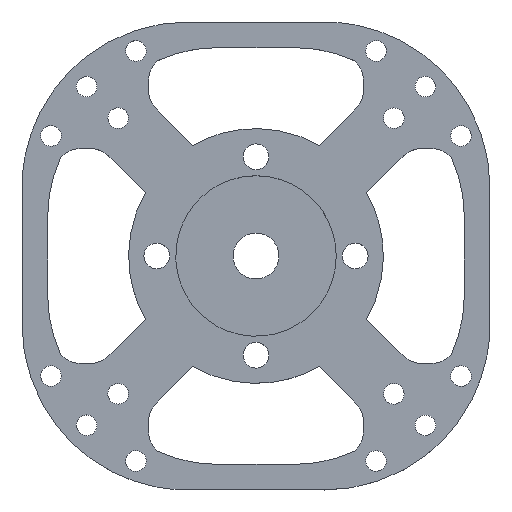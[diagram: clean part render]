
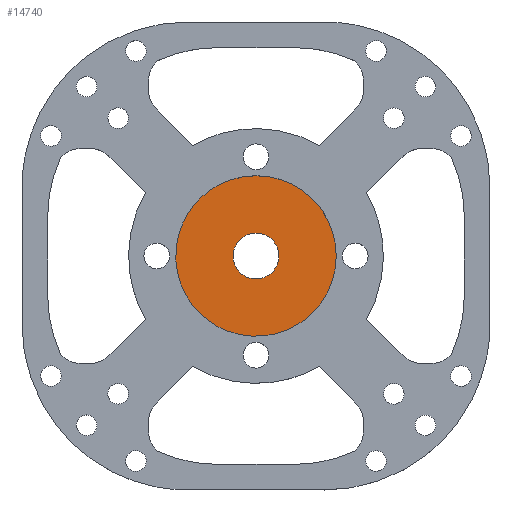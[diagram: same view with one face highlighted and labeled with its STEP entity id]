
A CAD part, top view. The second image highlights one B-rep face of the part: STEP entity #14740.
In plain terms, the highlighted free-form (B-spline) face has degree [1, 1] with [2, 2] control points.
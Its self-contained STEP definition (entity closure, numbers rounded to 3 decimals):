
#14070 = CARTESIAN_POINT ('', (22.274, 22.274, 3.006));
#14080 = VERTEX_POINT ('', #14070);
#14160 = CARTESIAN_POINT ('', (22.274, 22.274, 3.006));
#14170 = CARTESIAN_POINT ('', (0., 44.548, 3.006));
#14180 = CARTESIAN_POINT ('', (-22.274, 22.274, 3.006));
#14190 = CARTESIAN_POINT ('', (-44.548, 0., 3.006));
#14200 = CARTESIAN_POINT ('', (-22.274, -22.274, 3.006));
#14210 = CARTESIAN_POINT ('', (0., -44.548, 3.006));
#14220 = CARTESIAN_POINT ('', (22.274, -22.274, 3.006));
#14230 = CARTESIAN_POINT ('', (44.548, 0., 3.006));
#14240 = CARTESIAN_POINT ('', (22.274, 22.274, 3.006));
#14250 = (
   BOUNDED_CURVE ()
   B_SPLINE_CURVE (2, (#14160, #14170, #14180, #14190, #14200, #14210, #14220, #14230, #14240), .UNSPECIFIED., .T., .U.)
   B_SPLINE_CURVE_WITH_KNOTS ((3, 2, 2, 2, 3), (0., 49.48, 98.96, 148.44, 197.92), .UNSPECIFIED.)
   CURVE ()
   GEOMETRIC_REPRESENTATION_ITEM ()
   RATIONAL_B_SPLINE_CURVE ((1., 0.707, 1., 0.707, 1., 0.707, 1., 0.707, 1.))
   REPRESENTATION_ITEM ('')
);
#14260 = EDGE_CURVE ('', #14080, #14080, #14250, .T.);
#14500 = ORIENTED_EDGE ('', *, *, #14260, .T.);
#14510 = EDGE_LOOP ('', (#14500));
#14520 = FACE_OUTER_BOUND ('', #14510, .T.);
#14530 = CARTESIAN_POINT ('', (-6.364, -6.364, 3.006));
#14540 = VERTEX_POINT ('', #14530);
#14550 = CARTESIAN_POINT ('', (-6.364, -6.364, 3.006));
#14560 = CARTESIAN_POINT ('', (-12.728, 0., 3.006));
#14570 = CARTESIAN_POINT ('', (-6.364, 6.364, 3.006));
#14580 = CARTESIAN_POINT ('', (0., 12.728, 3.006));
#14590 = CARTESIAN_POINT ('', (6.364, 6.364, 3.006));
#14600 = CARTESIAN_POINT ('', (12.728, 0., 3.006));
#14610 = CARTESIAN_POINT ('', (6.364, -6.364, 3.006));
#14620 = CARTESIAN_POINT ('', (0., -12.728, 3.006));
#14630 = CARTESIAN_POINT ('', (-6.364, -6.364, 3.006));
#14640 = (
   BOUNDED_CURVE ()
   B_SPLINE_CURVE (2, (#14550, #14560, #14570, #14580, #14590, #14600, #14610, #14620, #14630), .UNSPECIFIED., .T., .U.)
   B_SPLINE_CURVE_WITH_KNOTS ((3, 2, 2, 2, 3), (0., 0.25, 0.5, 0.75, 1.), .UNSPECIFIED.)
   CURVE ()
   GEOMETRIC_REPRESENTATION_ITEM ()
   RATIONAL_B_SPLINE_CURVE ((1., 0.707, 1., 0.707, 1., 0.707, 1., 0.707, 1.))
   REPRESENTATION_ITEM ('')
);
#14650 = EDGE_CURVE ('', #14540, #14540, #14640, .T.);
#14660 = ORIENTED_EDGE ('', *, *, #14650, .T.);
#14670 = EDGE_LOOP ('', (#14660));
#14680 = FACE_BOUND ('', #14670, .T.);
#14690 = CARTESIAN_POINT ('', (0., -49.002, 3.006));
#14700 = CARTESIAN_POINT ('', (-49.002, 0., 3.006));
#14710 = CARTESIAN_POINT ('', (49.002, 0., 3.006));
#14720 = CARTESIAN_POINT ('', (0., 49.002, 3.006));
#14730 = B_SPLINE_SURFACE_WITH_KNOTS ('', 1, 1, ((#14690, #14700), (#14710, #14720)), .UNSPECIFIED., .F., .F., .U., (2, 2), (2, 2), (0., 1.), (0., 1.), .UNSPECIFIED.);
#14740 = ADVANCED_FACE ('', (#14520, #14680), #14730, .T.);
